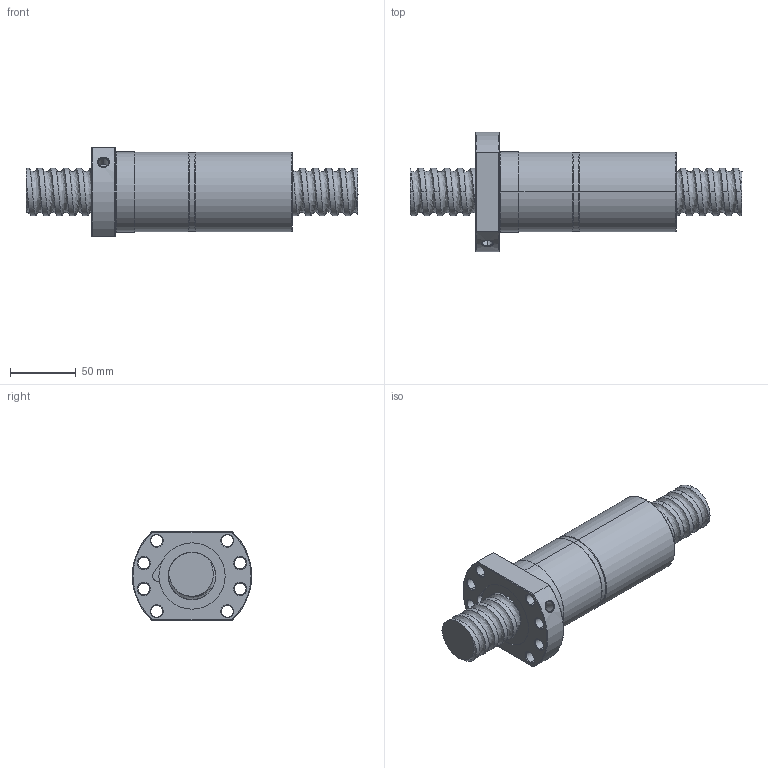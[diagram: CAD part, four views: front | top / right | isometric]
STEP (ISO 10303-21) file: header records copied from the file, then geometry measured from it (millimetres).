
FILE_DESCRIPTION (( 'STEP AP214' ), '1' );
FILE_NAME ('FDDC03610T5-F-C.STEP', '2010-07-06T05:15:14', ( 'XPAUTO' ), ( 'XPAUTO' ), 'SwSTEP 2.0', 'SolidWorks 2007', '' );
FILE_SCHEMA (( 'AUTOMOTIVE_DESIGN' ));
Length unit declared in the file: millimetre
Products named in the file (3): FDDC03610T5-F-C; FDDC03610T5-F-C.sldasm-Part-2_預設; FDDC03610T5-F-C.sldasm-Part-1_預設
Assembly tree (2 placements, depth 2):
  FDDC03610T5-F-C
    FDDC03610T5-F-C.sldasm-Part-1_預設
    FDDC03610T5-F-C.sldasm-Part-2_預設
Bounding box: 253 x 91 x 68 mm (x, y, z)
Volume: 550753.2 mm3; surface area: 96621.3 mm2
Topology: 2 solids, 2 shells, 166 faces, 416 edges, 259 vertices
Faces by surface type: cylinder 97, cone 32, plane 22, torus 10, bspline 5
Entity records: 46607 total; most frequent: CARTESIAN_POINT 42692, ORIENTED_EDGE 832, DIRECTION 752, EDGE_CURVE 416, AXIS2_PLACEMENT_3D 303, VERTEX_POINT 259, EDGE_LOOP 191, FACE_OUTER_BOUND 166
